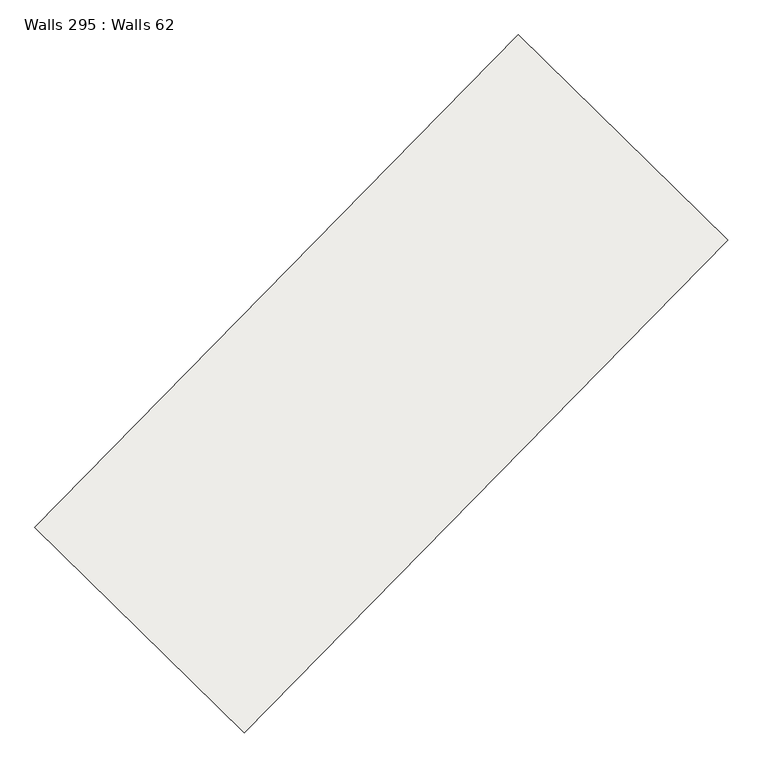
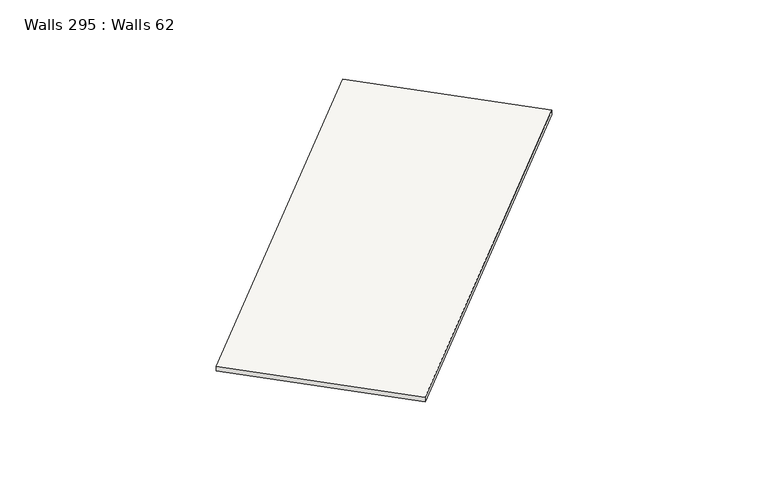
"""IFC4 building model written with IfcOpenShell, lengths in millimetres: slab geometry, Walls 295 : Walls 62."""

from ifc_helpers import new_model, si_unit, frame, origin, place, context, project, spatial, polyline, outline, extrude, source, transform, mapped, element, save


def walls_295_walls_62_9cfce1bc(model_context):
    return source(origin(), model_context, "Body", "SweptSolid", [
        extrude(outline(polyline([(-50.0, 0.0), (50.0, 0.0), (-66.8197328, -8699.9999996), (-166.8197328, -8699.9999996), (-50.0, 0.0)])), frame((-6043.8005681, -165503.6538783, 637986.8197328), z_axis=(-0.7137361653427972, 0.7004146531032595, 0.0), x_axis=(0.0, 0.0, 1.0)), (0.0, 0.0, 1.0), 3699.999995),
    ])


if __name__ == "__main__":
    model = new_model("IFC4")
    model_context = context("Model", 3, world=origin())
    ifc_project = project(units=[si_unit("LENGTHUNIT", "METRE", prefix="MILLI")], contexts=[model_context])
    site = spatial("IfcSite", under=ifc_project)
    building = spatial("IfcBuilding", under=site)
    placement = place(None, origin())
    walls_295_walls_62_shape = walls_295_walls_62_9cfce1bc(model_context)
    element("IfcSlab", 1, ObjectType="Walls 295 : Walls 62", at=placement, inside=building, context=model_context, shape_type="MappedRepresentation", body=[
        mapped(walls_295_walls_62_shape, transform((0.0, 0.0, 0.0), x_axis=(1.0, 0.0, 0.0), y_axis=(0.0, 1.0, 0.0), z_axis=(0.0, 0.0, 1.0))),
    ])
    save(model, "model.ifc")
